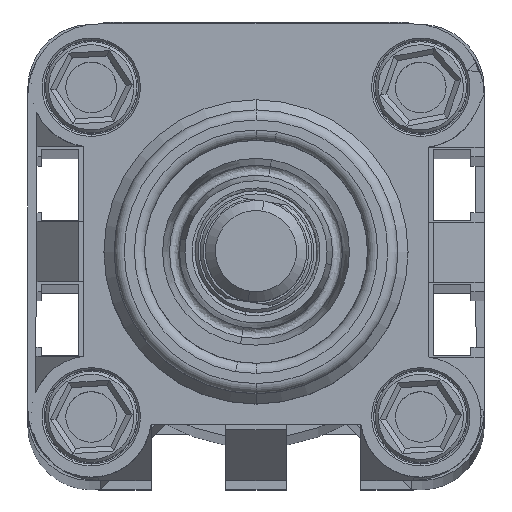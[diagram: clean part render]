
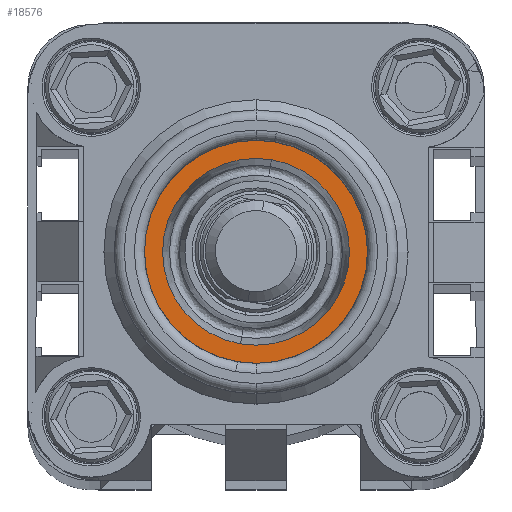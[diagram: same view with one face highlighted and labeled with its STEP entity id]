
A CAD part, top view. The second image highlights one B-rep face of the part: STEP entity #18576.
In plain terms, the highlighted planar face has unit normal (0, 0, 1) as drawn and (0, -1, 0) by its records, which use the part's own axes.
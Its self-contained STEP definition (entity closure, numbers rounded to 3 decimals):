
#382 = CARTESIAN_POINT ( 'NONE',  ( 0., -10.4, 11. ) ) ;
#805 = DIRECTION ( 'NONE',  ( 0., 0., -1. ) ) ;
#1705 = CARTESIAN_POINT ( 'NONE',  ( 0., -10.4, 0. ) ) ;
#1910 = DIRECTION ( 'NONE',  ( 0., 0., 1. ) ) ;
#1988 = FACE_OUTER_BOUND ( 'NONE', #5607, .T. ) ;
#2242 = CARTESIAN_POINT ( 'NONE',  ( 0., -10.4, -11. ) ) ;
#2521 = CARTESIAN_POINT ( 'NONE',  ( 0., -10.4, 0. ) ) ;
#2790 = CIRCLE ( 'NONE', #18942, 11. ) ;
#2953 = EDGE_CURVE ( 'NONE', #5788, #11711, #6546, .T. ) ;
#3396 = EDGE_LOOP ( 'NONE', ( #8227, #4976 ) ) ;
#4034 = CARTESIAN_POINT ( 'NONE',  ( 0., -10.4, 0. ) ) ;
#4602 = PLANE ( 'NONE',  #17175 ) ;
#4976 = ORIENTED_EDGE ( 'NONE', *, *, #17454, .T. ) ;
#5607 = EDGE_LOOP ( 'NONE', ( #15918, #15917 ) ) ;
#5788 = VERTEX_POINT ( 'NONE', #17851 ) ;
#6546 = CIRCLE ( 'NONE', #12936, 9.214 ) ;
#7605 = DIRECTION ( 'NONE',  ( 0., 0., 1. ) ) ;
#7732 = DIRECTION ( 'NONE',  ( 0., 0., -1. ) ) ;
#8227 = ORIENTED_EDGE ( 'NONE', *, *, #2953, .T. ) ;
#9978 = CIRCLE ( 'NONE', #21401, 9.214 ) ;
#11424 = DIRECTION ( 'NONE',  ( 0., 1., 0. ) ) ;
#11711 = VERTEX_POINT ( 'NONE', #16086 ) ;
#11737 = EDGE_CURVE ( 'NONE', #17812, #20315, #2790, .T. ) ;
#12936 = AXIS2_PLACEMENT_3D ( 'NONE', #2521, #15275, #805 ) ;
#13947 = CARTESIAN_POINT ( 'NONE',  ( 0., -10.4, 0. ) ) ;
#14347 = DIRECTION ( 'NONE',  ( 0., 1., 0. ) ) ;
#15015 = FACE_BOUND ( 'NONE', #3396, .T. ) ;
#15275 = DIRECTION ( 'NONE',  ( 0., 1., 0. ) ) ;
#15917 = ORIENTED_EDGE ( 'NONE', *, *, #20294, .F. ) ;
#15918 = ORIENTED_EDGE ( 'NONE', *, *, #11737, .F. ) ;
#16086 = CARTESIAN_POINT ( 'NONE',  ( 0., -10.4, 9.214 ) ) ;
#17175 = AXIS2_PLACEMENT_3D ( 'NONE', #17502, #17257, #19324 ) ;
#17257 = DIRECTION ( 'NONE',  ( 0., -1., 0. ) ) ;
#17454 = EDGE_CURVE ( 'NONE', #11711, #5788, #9978, .T. ) ;
#17502 = CARTESIAN_POINT ( 'NONE',  ( -11., -10.4, 0. ) ) ;
#17812 = VERTEX_POINT ( 'NONE', #382 ) ;
#17851 = CARTESIAN_POINT ( 'NONE',  ( 0., -10.4, -9.214 ) ) ;
#18492 = DIRECTION ( 'NONE',  ( 0., 1., 0. ) ) ;
#18576 = ADVANCED_FACE ( 'NONE', ( #15015, #1988 ), #4602, .T. ) ;
#18942 = AXIS2_PLACEMENT_3D ( 'NONE', #13947, #14347, #1910 ) ;
#19324 = DIRECTION ( 'NONE',  ( 0., 0., -1. ) ) ;
#19457 = CIRCLE ( 'NONE', #22071, 11. ) ;
#20294 = EDGE_CURVE ( 'NONE', #20315, #17812, #19457, .T. ) ;
#20315 = VERTEX_POINT ( 'NONE', #2242 ) ;
#21401 = AXIS2_PLACEMENT_3D ( 'NONE', #4034, #11424, #7732 ) ;
#22071 = AXIS2_PLACEMENT_3D ( 'NONE', #1705, #18492, #7605 ) ;
